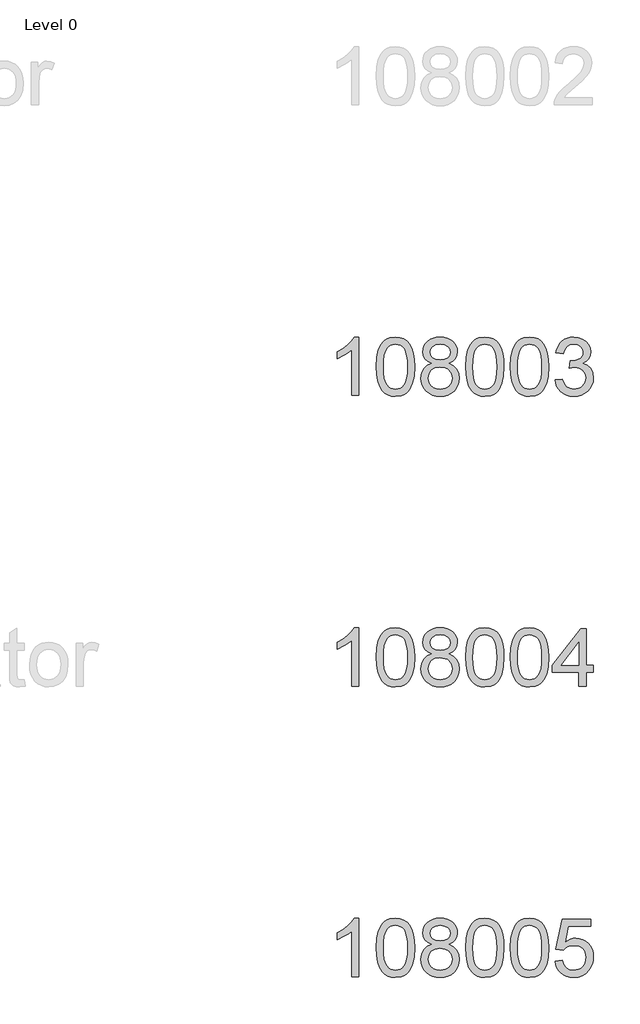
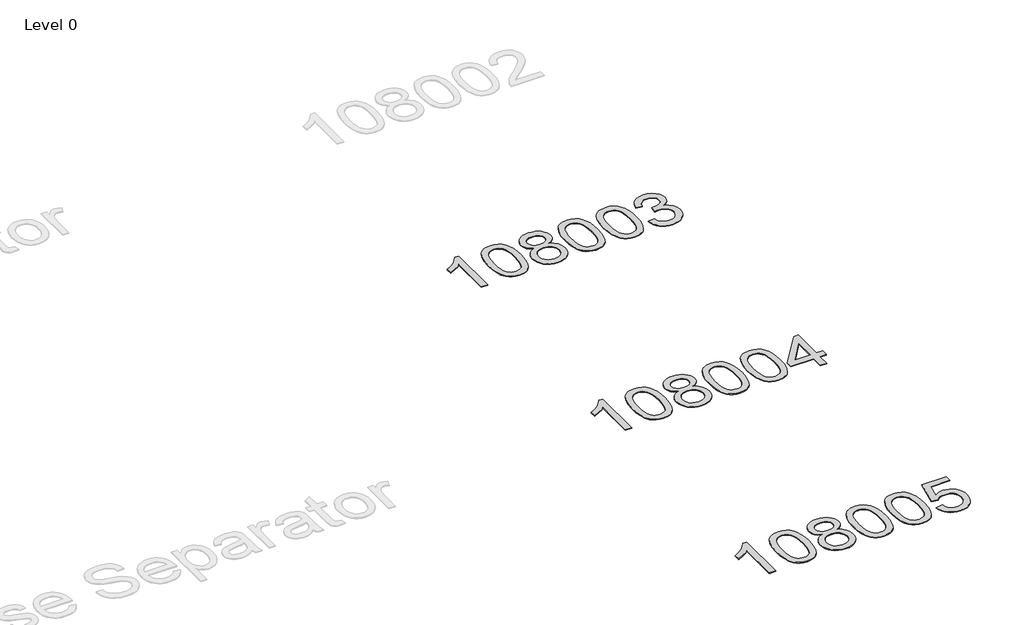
# One storey, part 3 of 15: 3 proxies.
"""IFC4 building model written with IfcOpenShell, lengths in millimetres."""

from ifc_helpers import new_model, si_unit, origin, origin_with_axes, place, context, project, spatial, polyline, outline, extrude, element, save

model = new_model("IFC4")

# Units and contexts
model_context = context("Model", 3, world=origin())
ifc_project = project(units=[si_unit("LENGTHUNIT", "METRE", prefix="MILLI")], contexts=[model_context])

# Site, building, storey
site = spatial("IfcSite", under=ifc_project)
building = spatial("IfcBuilding", under=site)
storey = spatial("IfcBuildingStorey", under=building, Name="Level 0", Elevation=0.0)

# Proxies
placement = place(None, origin())
element("IfcBuildingElementProxy", 1, Name="400mm Arial", ObjectType="400mm Arial", at=placement, inside=storey, context=model_context, shape_type="SweptSolid", body=[
    extrude(outline(polyline([(-3629.592891, 4149.0232018), (-3679.821046, 4149.0232018), (-3679.821046, 4462.1643561), (-3700.7903198, 4445.2049961), (-3727.4004508, 4428.2701616), (-3780.2773562, 4402.9108294), (-3780.2773562, 4450.3921323), (-3740.8281436, 4471.8519153), (-3706.6519062, 4497.3829258), (-3679.7106814, 4524.532617), (-3661.9665065, 4550.8484424), (-3629.592891, 4550.8484424), (-3629.592891, 4149.0232018)])), origin_with_axes(), (0.0, 0.0, 1.0), 5.0),
    extrude(outline(polyline([(-3510.3010227, 4346.6984606), (-3506.60994, 4411.0164961), (-3495.5366919, 4462.3115089), (-3477.1916431, 4501.3683141), (-3465.3335801, 4516.6016944), (-3451.6851581, 4528.9717264), (-3436.2003918, 4538.5427897), (-3418.8332959, 4545.3792634), (-3378.4521156, 4550.8484424), (-3347.5009771, 4547.6110809), (-3319.7872001, 4537.8989962), (-3296.6106344, 4522.0923331), (-3279.2711297, 4500.5712364), (-3266.1745307, 4473.519647), (-3255.726682, 4441.121506), (-3248.8840769, 4399.9800362), (-3246.6032085, 4346.6984606), (-3250.257503, 4282.7483071), (-3261.2203865, 4231.5759215), (-3279.4550707, 4192.4823282), (-3291.2855425, 4177.2029627), (-3304.9247675, 4164.7685512), (-3320.4279279, 4155.1331086), (-3337.8502061, 4148.2506496), (-3378.4521156, 4142.7446824), (-3406.1168416, 4145.1359154), (-3430.642308, 4152.3096143), (-3452.0285146, 4164.2657792), (-3470.2754616, 4181.0044099), (-3487.7866446, 4211.262704), (-3500.2946324, 4248.9644772), (-3507.7994251, 4294.1097294), (-3510.3010227, 4346.6984606)]), holes=[polyline([(-3460.0728676, 4346.7965624), (-3458.6013396, 4303.1320353), (-3454.1867557, 4267.7877726), (-3446.8291158, 4240.7637744), (-3436.5284199, 4222.0600406), (-3424.069483, 4209.3343892), (-3410.23712, 4200.2446383), (-3395.0313308, 4194.7907877), (-3378.4521156, 4192.9728375), (-3361.8729003, 4194.7969191), (-3346.6671112, 4200.2691637), (-3332.8347482, 4209.3895715), (-3320.3758113, 4222.1581425), (-3310.0751154, 4240.8925331), (-3302.7174755, 4267.9103999), (-3298.3028916, 4303.2117431), (-3296.8313636, 4346.7965624), (-3298.2538406, 4389.305327), (-3302.5212718, 4424.0272559), (-3309.633657, 4450.9623494), (-3319.5909964, 4470.1106072), (-3331.8414668, 4483.4585923), (-3345.8332454, 4492.9928673), (-3361.566332, 4498.7134323), (-3379.0407268, 4500.6202873), (-3395.5341029, 4498.9402929), (-3410.4823746, 4493.9003096), (-3423.885542, 4485.5003373), (-3435.743605, 4473.7403762), (-3446.3876574, 4452.8937298), (-3453.9905519, 4424.7875454), (-3458.5522887, 4389.4218229), (-3460.0728676, 4346.7965624)])]), origin_with_axes(), (0.0, 0.0, 1.0), 5.0),
    extrude(outline(polyline([(-3129.4695813, 4370.3410101), (-3156.3617551, 4383.5847619), (-3175.2341015, 4401.5374033), (-3186.3809259, 4423.8310522), (-3190.0965341, 4450.0978267), (-3188.0731831, 4470.5827224), (-3182.0031302, 4489.3630983), (-3171.8863753, 4506.4389542), (-3157.7229185, 4521.8102903), (-3140.1933414, 4534.5144818), (-3119.9782258, 4543.5889044), (-3097.0775716, 4549.0335579), (-3071.4913788, 4550.8484424), (-3045.7825587, 4548.9906383), (-3022.7102263, 4543.4172261), (-3002.2743814, 4534.1282057), (-2984.4750242, 4521.1235772), (-2970.05405, 4505.4518042), (-2959.7533542, 4488.1613504), (-2953.5729366, 4469.2522159), (-2951.5127975, 4448.7244006), (-2955.1793547, 4423.3037547), (-2966.1790263, 4401.3902505), (-2984.6344398, 4383.5479737), (-3010.6682223, 4370.3410101), (-2979.753872, 4354.4117197), (-2957.2517566, 4330.9531112), (-2943.5297582, 4301.0933559), (-2938.9557587, 4265.9606254), (-2941.2243643, 4240.9078615), (-2948.0301812, 4217.9397623), (-2959.3732094, 4197.0563277), (-2975.2534489, 4178.2575577), (-2994.8370338, 4162.7206748), (-3017.2900982, 4151.6229013), (-3042.6126422, 4144.9642371), (-3070.8046658, 4142.7446824), (-3098.9966893, 4144.9734342), (-3124.3192333, 4151.6596895), (-3146.7722978, 4162.8034482), (-3166.3558826, 4178.4047105), (-3182.2361221, 4197.3353048), (-3193.5791503, 4218.4670598), (-3200.3849672, 4241.7999753), (-3202.6535728, 4267.3340515), (-3197.8956324, 4303.8279454), (-3183.621811, 4333.8471162), (-3160.5678726, 4356.3614943), (-3129.4695813, 4370.3410101)]), holes=[polyline([(-3139.868379, 4448.6262987), (-3135.4170068, 4426.7005318), (-3122.0628904, 4409.1893488), (-3100.1984372, 4397.7114306), (-3070.2160546, 4393.8854578), (-3040.9326478, 4397.6869051), (-3019.3992883, 4409.0912469), (-3006.1555365, 4426.0138187), (-3001.7409525, 4446.3699558), (-3006.3026893, 4467.498645), (-3019.9878995, 4484.9730398), (-3041.8155645, 4496.7084755), (-3070.8046658, 4500.6202873), (-3099.977708, 4496.7943146), (-3121.7685848, 4485.3163963), (-3135.3434305, 4468.4919264), (-3139.868379, 4448.6262987)]), polyline([(-3152.4254178, 4269.099885), (-3150.3284904, 4249.8841822), (-3144.0377083, 4231.2816159), (-3132.4249, 4215.05802), (-3114.361894, 4202.9792278), (-3092.7304327, 4195.4744351), (-3070.4122583, 4192.9728375), (-3036.2237582, 4198.23355), (-3022.3300815, 4204.8094407), (-3010.5701204, 4214.0156876), (-2994.5304654, 4237.9157546), (-2989.1839138, 4267.5302552), (-2994.7021437, 4297.6475279), (-3011.2568335, 4322.0748924), (-3023.3356257, 4331.5171969), (-3037.4990825, 4338.2617001), (-3072.07999, 4343.6573027), (-3105.7902435, 4338.3352765), (-3119.5275703, 4331.6827438), (-3131.1863639, 4322.3691979), (-3147.1156543, 4298.4078173), (-3152.4254178, 4269.099885)])]), origin_with_axes(), (0.0, 0.0, 1.0), 5.0),
    extrude(outline(polyline([(-2895.006123, 4346.6984606), (-2891.3150403, 4411.0164961), (-2880.2417923, 4462.3115089), (-2861.8967434, 4501.3683141), (-2850.0386805, 4516.6016944), (-2836.3902584, 4528.9717264), (-2820.9054921, 4538.5427897), (-2803.5383963, 4545.3792634), (-2763.1572159, 4550.8484424), (-2732.2060774, 4547.6110809), (-2704.4923004, 4537.8989962), (-2681.3157347, 4522.0923331), (-2663.97623, 4500.5712364), (-2650.879631, 4473.519647), (-2640.4317823, 4441.121506), (-2633.5891772, 4399.9800362), (-2631.3083089, 4346.6984606), (-2634.9626033, 4282.7483071), (-2645.9254868, 4231.5759215), (-2664.160171, 4192.4823282), (-2675.9906429, 4177.2029627), (-2689.6298678, 4164.7685512), (-2705.1330282, 4155.1331086), (-2722.5553064, 4148.2506496), (-2763.1572159, 4142.7446824), (-2790.821942, 4145.1359154), (-2815.3474083, 4152.3096143), (-2836.733615, 4164.2657792), (-2854.9805619, 4181.0044099), (-2872.4917449, 4211.262704), (-2884.9997327, 4248.9644772), (-2892.5045254, 4294.1097294), (-2895.006123, 4346.6984606)]), holes=[polyline([(-2844.7779679, 4346.7965624), (-2843.3064399, 4303.1320353), (-2838.891856, 4267.7877726), (-2831.5342161, 4240.7637744), (-2821.2335202, 4222.0600406), (-2808.7745833, 4209.3343892), (-2794.9422203, 4200.2446383), (-2779.7364312, 4194.7907877), (-2763.1572159, 4192.9728375), (-2746.5780007, 4194.7969191), (-2731.3722115, 4200.2691637), (-2717.5398485, 4209.3895715), (-2705.0809116, 4222.1581425), (-2694.7802158, 4240.8925331), (-2687.4225759, 4267.9103999), (-2683.0079919, 4303.2117431), (-2681.5364639, 4346.7965624), (-2682.958941, 4389.305327), (-2687.2263721, 4424.0272559), (-2694.3387574, 4450.9623494), (-2704.2960967, 4470.1106072), (-2716.5465671, 4483.4585923), (-2730.5383457, 4492.9928673), (-2746.2714324, 4498.7134323), (-2763.7458271, 4500.6202873), (-2780.2392032, 4498.9402929), (-2795.187475, 4493.9003096), (-2808.5906423, 4485.5003373), (-2820.4487053, 4473.7403762), (-2831.0927577, 4452.8937298), (-2838.6956523, 4424.7875454), (-2843.257389, 4389.4218229), (-2844.7779679, 4346.7965624)])]), origin_with_axes(), (0.0, 0.0, 1.0), 5.0),
    extrude(outline(polyline([(-2587.3586732, 4346.6984606), (-2583.6675905, 4411.0164961), (-2572.5943424, 4462.3115089), (-2554.2492936, 4501.3683141), (-2542.3912306, 4516.6016944), (-2528.7428086, 4528.9717264), (-2513.2580423, 4538.5427897), (-2495.8909464, 4545.3792634), (-2455.5097661, 4550.8484424), (-2424.5586276, 4547.6110809), (-2396.8448506, 4537.8989962), (-2373.6682849, 4522.0923331), (-2356.3287802, 4500.5712364), (-2343.2321812, 4473.519647), (-2332.7843325, 4441.121506), (-2325.9417274, 4399.9800362), (-2323.660859, 4346.6984606), (-2327.3151535, 4282.7483071), (-2338.278037, 4231.5759215), (-2356.5127212, 4192.4823282), (-2368.343193, 4177.2029627), (-2381.982418, 4164.7685512), (-2397.4855784, 4155.1331086), (-2414.9078566, 4148.2506496), (-2455.5097661, 4142.7446824), (-2483.1744921, 4145.1359154), (-2507.6999585, 4152.3096143), (-2529.0861651, 4164.2657792), (-2547.3331121, 4181.0044099), (-2564.8442951, 4211.262704), (-2577.3522829, 4248.9644772), (-2584.8570756, 4294.1097294), (-2587.3586732, 4346.6984606)]), holes=[polyline([(-2537.1305181, 4346.7965624), (-2535.6589901, 4303.1320353), (-2531.2444062, 4267.7877726), (-2523.8867663, 4240.7637744), (-2513.5860704, 4222.0600406), (-2501.1271335, 4209.3343892), (-2487.2947705, 4200.2446383), (-2472.0889813, 4194.7907877), (-2455.5097661, 4192.9728375), (-2438.9305508, 4194.7969191), (-2423.7247617, 4200.2691637), (-2409.8923987, 4209.3895715), (-2397.4334618, 4222.1581425), (-2387.1327659, 4240.8925331), (-2379.775126, 4267.9103999), (-2375.3605421, 4303.2117431), (-2373.8890141, 4346.7965624), (-2375.3114911, 4389.305327), (-2379.5789223, 4424.0272559), (-2386.6913075, 4450.9623494), (-2396.6486469, 4470.1106072), (-2408.8991173, 4483.4585923), (-2422.8908959, 4492.9928673), (-2438.6239825, 4498.7134323), (-2456.0983773, 4500.6202873), (-2472.5917534, 4498.9402929), (-2487.5400251, 4493.9003096), (-2500.9431925, 4485.5003373), (-2512.8012555, 4473.7403762), (-2523.4453079, 4452.8937298), (-2531.0482024, 4424.7875454), (-2535.6099392, 4389.4218229), (-2537.1305181, 4346.7965624)])]), origin_with_axes(), (0.0, 0.0, 1.0), 5.0),
    extrude(outline(polyline([(-2279.7112233, 4255.7580314), (-2229.4830683, 4262.0365507), (-2218.2381419, 4230.4722756), (-2201.7692913, 4209.1596453), (-2179.2671759, 4197.0195395), (-2149.9224554, 4192.9728375), (-2115.4887007, 4198.5401184), (-2101.2148793, 4205.4992194), (-2088.9030952, 4215.241961), (-2071.906947, 4240.1598348), (-2066.2415643, 4270.3752093), (-2071.8578961, 4299.0577422), (-2088.7068914, 4322.320147), (-2114.2133764, 4337.7344026), (-2145.8021771, 4342.8724878), (-2181.0207468, 4337.3787834), (-2175.4289404, 4387.6069384), (-2167.3845875, 4387.0183272), (-2137.2918403, 4390.6235708), (-2110.3874037, 4401.4393014), (-2099.3141556, 4409.6185445), (-2091.4046927, 4419.7352993), (-2086.659015, 4431.789566), (-2085.0771224, 4445.7813446), (-2089.6633846, 4467.4741196), (-2103.4221712, 4485.0711417), (-2124.4159704, 4496.7330009), (-2150.7072704, 4500.6202873), (-2177.0476212, 4496.6962127), (-2198.5809807, 4484.9239889), (-2214.3018046, 4465.3036158), (-2223.2045489, 4437.8350935), (-2273.432704, 4444.1136129), (-2267.479147, 4468.0933876), (-2258.6438477, 4489.2159455), (-2246.9268062, 4507.4812866), (-2232.3280224, 4522.8894108), (-2215.3073487, 4535.1214871), (-2196.3246378, 4543.8586845), (-2175.3798895, 4549.1010029), (-2152.4731039, 4550.8484424), (-2120.896566, 4547.4026144), (-2091.8952021, 4537.0651303), (-2067.4433121, 4520.7556952), (-2049.5151962, 4499.394014), (-2038.5155246, 4474.7827086), (-2034.8489673, 4448.7244006), (-2038.3315836, 4424.4441889), (-2048.7794322, 4402.4203201), (-2066.0453605, 4383.6583383), (-2089.9822157, 4369.1637877), (-2058.5405678, 4356.4595962), (-2035.2413748, 4334.8281349), (-2020.8204006, 4305.4466262), (-2016.0134092, 4269.4922925), (-2018.4169049, 4244.010333), (-2025.627392, 4220.5394617), (-2037.6448705, 4199.0796786), (-2054.4693404, 4179.6309838), (-2074.9664989, 4163.493227), (-2098.0020432, 4151.9662578), (-2123.5759732, 4145.0500763), (-2151.688289, 4142.7446824), (-2177.0966721, 4144.7128511), (-2200.2487124, 4150.6173571), (-2221.1444097, 4160.4582005), (-2239.7837641, 4174.2353812), (-2255.4126176, 4191.1395589), (-2267.2768119, 4210.3613932), (-2275.3763472, 4231.900884), (-2279.7112233, 4255.7580314)])), origin_with_axes(), (0.0, 0.0, 1.0), 5.0),
])
element("IfcBuildingElementProxy", 2, Name="400mm Arial", ObjectType="400mm Arial", at=placement, inside=storey, context=model_context, shape_type="SweptSolid", body=[
    extrude(outline(polyline([(-3629.592891, 2149.0232018), (-3679.821046, 2149.0232018), (-3679.821046, 2462.1643561), (-3700.7903198, 2445.2049961), (-3727.4004508, 2428.2701616), (-3780.2773562, 2402.9108294), (-3780.2773562, 2450.3921323), (-3740.8281436, 2471.8519153), (-3706.6519062, 2497.3829258), (-3679.7106814, 2524.532617), (-3661.9665065, 2550.8484424), (-3629.592891, 2550.8484424), (-3629.592891, 2149.0232018)])), origin_with_axes(), (0.0, 0.0, 1.0), 5.0),
    extrude(outline(polyline([(-3510.3010227, 2346.6984606), (-3506.60994, 2411.0164961), (-3495.5366919, 2462.3115089), (-3477.1916431, 2501.3683141), (-3465.3335801, 2516.6016944), (-3451.6851581, 2528.9717264), (-3436.2003918, 2538.5427897), (-3418.8332959, 2545.3792634), (-3378.4521156, 2550.8484424), (-3347.5009771, 2547.6110809), (-3319.7872001, 2537.8989962), (-3296.6106344, 2522.0923331), (-3279.2711297, 2500.5712364), (-3266.1745307, 2473.519647), (-3255.726682, 2441.121506), (-3248.8840769, 2399.9800362), (-3246.6032085, 2346.6984606), (-3250.257503, 2282.7483071), (-3261.2203865, 2231.5759215), (-3279.4550707, 2192.4823282), (-3291.2855425, 2177.2029627), (-3304.9247675, 2164.7685512), (-3320.4279279, 2155.1331086), (-3337.8502061, 2148.2506496), (-3378.4521156, 2142.7446824), (-3406.1168416, 2145.1359154), (-3430.642308, 2152.3096143), (-3452.0285146, 2164.2657792), (-3470.2754616, 2181.0044099), (-3487.7866446, 2211.262704), (-3500.2946324, 2248.9644772), (-3507.7994251, 2294.1097294), (-3510.3010227, 2346.6984606)]), holes=[polyline([(-3460.0728676, 2346.7965624), (-3458.6013396, 2303.1320353), (-3454.1867557, 2267.7877726), (-3446.8291158, 2240.7637744), (-3436.5284199, 2222.0600406), (-3424.069483, 2209.3343892), (-3410.23712, 2200.2446383), (-3395.0313308, 2194.7907877), (-3378.4521156, 2192.9728375), (-3361.8729003, 2194.7969191), (-3346.6671112, 2200.2691637), (-3332.8347482, 2209.3895715), (-3320.3758113, 2222.1581425), (-3310.0751154, 2240.8925331), (-3302.7174755, 2267.9103999), (-3298.3028916, 2303.2117431), (-3296.8313636, 2346.7965624), (-3298.2538406, 2389.305327), (-3302.5212718, 2424.0272559), (-3309.633657, 2450.9623494), (-3319.5909964, 2470.1106072), (-3331.8414668, 2483.4585923), (-3345.8332454, 2492.9928673), (-3361.566332, 2498.7134323), (-3379.0407268, 2500.6202873), (-3395.5341029, 2498.9402929), (-3410.4823746, 2493.9003096), (-3423.885542, 2485.5003373), (-3435.743605, 2473.7403762), (-3446.3876574, 2452.8937298), (-3453.9905519, 2424.7875454), (-3458.5522887, 2389.4218229), (-3460.0728676, 2346.7965624)])]), origin_with_axes(), (0.0, 0.0, 1.0), 5.0),
    extrude(outline(polyline([(-3129.4695813, 2370.3410101), (-3156.3617551, 2383.5847619), (-3175.2341015, 2401.5374033), (-3186.3809259, 2423.8310522), (-3190.0965341, 2450.0978267), (-3188.0731831, 2470.5827224), (-3182.0031302, 2489.3630983), (-3171.8863753, 2506.4389542), (-3157.7229185, 2521.8102903), (-3140.1933414, 2534.5144818), (-3119.9782258, 2543.5889044), (-3097.0775716, 2549.0335579), (-3071.4913788, 2550.8484424), (-3045.7825587, 2548.9906383), (-3022.7102263, 2543.4172261), (-3002.2743814, 2534.1282057), (-2984.4750242, 2521.1235772), (-2970.05405, 2505.4518042), (-2959.7533542, 2488.1613504), (-2953.5729366, 2469.2522159), (-2951.5127975, 2448.7244006), (-2955.1793547, 2423.3037547), (-2966.1790263, 2401.3902505), (-2984.6344398, 2383.5479737), (-3010.6682223, 2370.3410101), (-2979.753872, 2354.4117197), (-2957.2517566, 2330.9531112), (-2943.5297582, 2301.0933559), (-2938.9557587, 2265.9606254), (-2941.2243643, 2240.9078615), (-2948.0301812, 2217.9397623), (-2959.3732094, 2197.0563277), (-2975.2534489, 2178.2575577), (-2994.8370338, 2162.7206748), (-3017.2900982, 2151.6229013), (-3042.6126422, 2144.9642371), (-3070.8046658, 2142.7446824), (-3098.9966893, 2144.9734342), (-3124.3192333, 2151.6596895), (-3146.7722978, 2162.8034482), (-3166.3558826, 2178.4047105), (-3182.2361221, 2197.3353048), (-3193.5791503, 2218.4670598), (-3200.3849672, 2241.7999753), (-3202.6535728, 2267.3340515), (-3197.8956324, 2303.8279454), (-3183.621811, 2333.8471162), (-3160.5678726, 2356.3614943), (-3129.4695813, 2370.3410101)]), holes=[polyline([(-3139.868379, 2448.6262987), (-3135.4170068, 2426.7005318), (-3122.0628904, 2409.1893488), (-3100.1984372, 2397.7114306), (-3070.2160546, 2393.8854578), (-3040.9326478, 2397.6869051), (-3019.3992883, 2409.0912469), (-3006.1555365, 2426.0138187), (-3001.7409525, 2446.3699558), (-3006.3026893, 2467.498645), (-3019.9878995, 2484.9730398), (-3041.8155645, 2496.7084755), (-3070.8046658, 2500.6202873), (-3099.977708, 2496.7943146), (-3121.7685848, 2485.3163963), (-3135.3434305, 2468.4919264), (-3139.868379, 2448.6262987)]), polyline([(-3152.4254178, 2269.099885), (-3150.3284904, 2249.8841822), (-3144.0377083, 2231.2816159), (-3132.4249, 2215.05802), (-3114.361894, 2202.9792278), (-3092.7304327, 2195.4744351), (-3070.4122583, 2192.9728375), (-3036.2237582, 2198.23355), (-3022.3300815, 2204.8094407), (-3010.5701204, 2214.0156876), (-2994.5304654, 2237.9157546), (-2989.1839138, 2267.5302552), (-2994.7021437, 2297.6475279), (-3011.2568335, 2322.0748924), (-3023.3356257, 2331.5171969), (-3037.4990825, 2338.2617001), (-3072.07999, 2343.6573027), (-3105.7902435, 2338.3352765), (-3119.5275703, 2331.6827438), (-3131.1863639, 2322.3691979), (-3147.1156543, 2298.4078173), (-3152.4254178, 2269.099885)])]), origin_with_axes(), (0.0, 0.0, 1.0), 5.0),
    extrude(outline(polyline([(-2895.006123, 2346.6984606), (-2891.3150403, 2411.0164961), (-2880.2417923, 2462.3115089), (-2861.8967434, 2501.3683141), (-2850.0386805, 2516.6016944), (-2836.3902584, 2528.9717264), (-2820.9054921, 2538.5427897), (-2803.5383963, 2545.3792634), (-2763.1572159, 2550.8484424), (-2732.2060774, 2547.6110809), (-2704.4923004, 2537.8989962), (-2681.3157347, 2522.0923331), (-2663.97623, 2500.5712364), (-2650.879631, 2473.519647), (-2640.4317823, 2441.121506), (-2633.5891772, 2399.9800362), (-2631.3083089, 2346.6984606), (-2634.9626033, 2282.7483071), (-2645.9254868, 2231.5759215), (-2664.160171, 2192.4823282), (-2675.9906429, 2177.2029627), (-2689.6298678, 2164.7685512), (-2705.1330282, 2155.1331086), (-2722.5553064, 2148.2506496), (-2763.1572159, 2142.7446824), (-2790.821942, 2145.1359154), (-2815.3474083, 2152.3096143), (-2836.733615, 2164.2657792), (-2854.9805619, 2181.0044099), (-2872.4917449, 2211.262704), (-2884.9997327, 2248.9644772), (-2892.5045254, 2294.1097294), (-2895.006123, 2346.6984606)]), holes=[polyline([(-2844.7779679, 2346.7965624), (-2843.3064399, 2303.1320353), (-2838.891856, 2267.7877726), (-2831.5342161, 2240.7637744), (-2821.2335202, 2222.0600406), (-2808.7745833, 2209.3343892), (-2794.9422203, 2200.2446383), (-2779.7364312, 2194.7907877), (-2763.1572159, 2192.9728375), (-2746.5780007, 2194.7969191), (-2731.3722115, 2200.2691637), (-2717.5398485, 2209.3895715), (-2705.0809116, 2222.1581425), (-2694.7802158, 2240.8925331), (-2687.4225759, 2267.9103999), (-2683.0079919, 2303.2117431), (-2681.5364639, 2346.7965624), (-2682.958941, 2389.305327), (-2687.2263721, 2424.0272559), (-2694.3387574, 2450.9623494), (-2704.2960967, 2470.1106072), (-2716.5465671, 2483.4585923), (-2730.5383457, 2492.9928673), (-2746.2714324, 2498.7134323), (-2763.7458271, 2500.6202873), (-2780.2392032, 2498.9402929), (-2795.187475, 2493.9003096), (-2808.5906423, 2485.5003373), (-2820.4487053, 2473.7403762), (-2831.0927577, 2452.8937298), (-2838.6956523, 2424.7875454), (-2843.257389, 2389.4218229), (-2844.7779679, 2346.7965624)])]), origin_with_axes(), (0.0, 0.0, 1.0), 5.0),
    extrude(outline(polyline([(-2587.3586732, 2346.6984606), (-2583.6675905, 2411.0164961), (-2572.5943424, 2462.3115089), (-2554.2492936, 2501.3683141), (-2542.3912306, 2516.6016944), (-2528.7428086, 2528.9717264), (-2513.2580423, 2538.5427897), (-2495.8909464, 2545.3792634), (-2455.5097661, 2550.8484424), (-2424.5586276, 2547.6110809), (-2396.8448506, 2537.8989962), (-2373.6682849, 2522.0923331), (-2356.3287802, 2500.5712364), (-2343.2321812, 2473.519647), (-2332.7843325, 2441.121506), (-2325.9417274, 2399.9800362), (-2323.660859, 2346.6984606), (-2327.3151535, 2282.7483071), (-2338.278037, 2231.5759215), (-2356.5127212, 2192.4823282), (-2368.343193, 2177.2029627), (-2381.982418, 2164.7685512), (-2397.4855784, 2155.1331086), (-2414.9078566, 2148.2506496), (-2455.5097661, 2142.7446824), (-2483.1744921, 2145.1359154), (-2507.6999585, 2152.3096143), (-2529.0861651, 2164.2657792), (-2547.3331121, 2181.0044099), (-2564.8442951, 2211.262704), (-2577.3522829, 2248.9644772), (-2584.8570756, 2294.1097294), (-2587.3586732, 2346.6984606)]), holes=[polyline([(-2537.1305181, 2346.7965624), (-2535.6589901, 2303.1320353), (-2531.2444062, 2267.7877726), (-2523.8867663, 2240.7637744), (-2513.5860704, 2222.0600406), (-2501.1271335, 2209.3343892), (-2487.2947705, 2200.2446383), (-2472.0889813, 2194.7907877), (-2455.5097661, 2192.9728375), (-2438.9305508, 2194.7969191), (-2423.7247617, 2200.2691637), (-2409.8923987, 2209.3895715), (-2397.4334618, 2222.1581425), (-2387.1327659, 2240.8925331), (-2379.775126, 2267.9103999), (-2375.3605421, 2303.2117431), (-2373.8890141, 2346.7965624), (-2375.3114911, 2389.305327), (-2379.5789223, 2424.0272559), (-2386.6913075, 2450.9623494), (-2396.6486469, 2470.1106072), (-2408.8991173, 2483.4585923), (-2422.8908959, 2492.9928673), (-2438.6239825, 2498.7134323), (-2456.0983773, 2500.6202873), (-2472.5917534, 2498.9402929), (-2487.5400251, 2493.9003096), (-2500.9431925, 2485.5003373), (-2512.8012555, 2473.7403762), (-2523.4453079, 2452.8937298), (-2531.0482024, 2424.7875454), (-2535.6099392, 2389.4218229), (-2537.1305181, 2346.7965624)])]), origin_with_axes(), (0.0, 0.0, 1.0), 5.0),
    extrude(outline(polyline([(-2116.4697193, 2149.0232018), (-2116.4697193, 2243.2009926), (-2298.5467815, 2243.2009926), (-2298.5467815, 2293.4291477), (-2103.9126806, 2544.569923), (-2066.2415643, 2544.569923), (-2066.2415643, 2293.4291477), (-2016.0134092, 2293.4291477), (-2016.0134092, 2243.2009926), (-2066.2415643, 2243.2009926), (-2066.2415643, 2149.0232018), (-2116.4697193, 2149.0232018)]), holes=[polyline([(-2116.4697193, 2293.4291477), (-2116.4697193, 2448.6262987), (-2236.7426063, 2293.4291477), (-2116.4697193, 2293.4291477)])]), origin_with_axes(), (0.0, 0.0, 1.0), 5.0),
])
element("IfcBuildingElementProxy", 3, Name="400mm Arial", ObjectType="400mm Arial", at=placement, inside=storey, context=model_context, shape_type="SweptSolid", body=[
    extrude(outline(polyline([(-3629.592891, 149.0232018), (-3679.821046, 149.0232018), (-3679.821046, 462.1643561), (-3700.7903198, 445.2049961), (-3727.4004508, 428.2701616), (-3780.2773562, 402.9108294), (-3780.2773562, 450.3921323), (-3740.8281436, 471.8519153), (-3706.6519062, 497.3829258), (-3679.7106814, 524.532617), (-3661.9665065, 550.8484424), (-3629.592891, 550.8484424), (-3629.592891, 149.0232018)])), origin_with_axes(), (0.0, 0.0, 1.0), 5.0),
    extrude(outline(polyline([(-3510.3010227, 346.6984606), (-3506.60994, 411.0164961), (-3495.5366919, 462.3115089), (-3477.1916431, 501.3683141), (-3465.3335801, 516.6016944), (-3451.6851581, 528.9717264), (-3436.2003918, 538.5427897), (-3418.8332959, 545.3792634), (-3378.4521156, 550.8484424), (-3347.5009771, 547.6110809), (-3319.7872001, 537.8989962), (-3296.6106344, 522.0923331), (-3279.2711297, 500.5712364), (-3266.1745307, 473.519647), (-3255.726682, 441.121506), (-3248.8840769, 399.9800362), (-3246.6032085, 346.6984606), (-3250.257503, 282.7483071), (-3261.2203865, 231.5759215), (-3279.4550707, 192.4823282), (-3291.2855425, 177.2029627), (-3304.9247675, 164.7685512), (-3320.4279279, 155.1331086), (-3337.8502061, 148.2506496), (-3378.4521156, 142.7446824), (-3406.1168416, 145.1359154), (-3430.642308, 152.3096143), (-3452.0285146, 164.2657792), (-3470.2754616, 181.0044099), (-3487.7866446, 211.262704), (-3500.2946324, 248.9644772), (-3507.7994251, 294.1097294), (-3510.3010227, 346.6984606)]), holes=[polyline([(-3460.0728676, 346.7965624), (-3458.6013396, 303.1320353), (-3454.1867557, 267.7877726), (-3446.8291158, 240.7637744), (-3436.5284199, 222.0600406), (-3424.069483, 209.3343892), (-3410.23712, 200.2446383), (-3395.0313308, 194.7907877), (-3378.4521156, 192.9728375), (-3361.8729003, 194.7969191), (-3346.6671112, 200.2691637), (-3332.8347482, 209.3895715), (-3320.3758113, 222.1581425), (-3310.0751154, 240.8925331), (-3302.7174755, 267.9103999), (-3298.3028916, 303.2117431), (-3296.8313636, 346.7965624), (-3298.2538406, 389.305327), (-3302.5212718, 424.0272559), (-3309.633657, 450.9623494), (-3319.5909964, 470.1106072), (-3331.8414668, 483.4585923), (-3345.8332454, 492.9928673), (-3361.566332, 498.7134323), (-3379.0407268, 500.6202873), (-3395.5341029, 498.9402929), (-3410.4823746, 493.9003096), (-3423.885542, 485.5003373), (-3435.743605, 473.7403762), (-3446.3876574, 452.8937298), (-3453.9905519, 424.7875454), (-3458.5522887, 389.4218229), (-3460.0728676, 346.7965624)])]), origin_with_axes(), (0.0, 0.0, 1.0), 5.0),
    extrude(outline(polyline([(-3129.4695813, 370.3410101), (-3156.3617551, 383.5847619), (-3175.2341015, 401.5374033), (-3186.3809259, 423.8310522), (-3190.0965341, 450.0978267), (-3188.0731831, 470.5827224), (-3182.0031302, 489.3630983), (-3171.8863753, 506.4389542), (-3157.7229185, 521.8102903), (-3140.1933414, 534.5144818), (-3119.9782258, 543.5889044), (-3097.0775716, 549.0335579), (-3071.4913788, 550.8484424), (-3045.7825587, 548.9906383), (-3022.7102263, 543.4172261), (-3002.2743814, 534.1282057), (-2984.4750242, 521.1235772), (-2970.05405, 505.4518042), (-2959.7533542, 488.1613504), (-2953.5729366, 469.2522159), (-2951.5127975, 448.7244006), (-2955.1793547, 423.3037547), (-2966.1790263, 401.3902505), (-2984.6344398, 383.5479737), (-3010.6682223, 370.3410101), (-2979.753872, 354.4117197), (-2957.2517566, 330.9531112), (-2943.5297582, 301.0933559), (-2938.9557587, 265.9606254), (-2941.2243643, 240.9078615), (-2948.0301812, 217.9397623), (-2959.3732094, 197.0563277), (-2975.2534489, 178.2575577), (-2994.8370338, 162.7206748), (-3017.2900982, 151.6229013), (-3042.6126422, 144.9642371), (-3070.8046658, 142.7446824), (-3098.9966893, 144.9734342), (-3124.3192333, 151.6596895), (-3146.7722978, 162.8034482), (-3166.3558826, 178.4047105), (-3182.2361221, 197.3353048), (-3193.5791503, 218.4670598), (-3200.3849672, 241.7999753), (-3202.6535728, 267.3340515), (-3197.8956324, 303.8279454), (-3183.621811, 333.8471162), (-3160.5678726, 356.3614943), (-3129.4695813, 370.3410101)]), holes=[polyline([(-3139.868379, 448.6262987), (-3135.4170068, 426.7005318), (-3122.0628904, 409.1893488), (-3100.1984372, 397.7114306), (-3070.2160546, 393.8854578), (-3040.9326478, 397.6869051), (-3019.3992883, 409.0912469), (-3006.1555365, 426.0138187), (-3001.7409525, 446.3699558), (-3006.3026893, 467.498645), (-3019.9878995, 484.9730398), (-3041.8155645, 496.7084755), (-3070.8046658, 500.6202873), (-3099.977708, 496.7943146), (-3121.7685848, 485.3163963), (-3135.3434305, 468.4919264), (-3139.868379, 448.6262987)]), polyline([(-3152.4254178, 269.099885), (-3150.3284904, 249.8841822), (-3144.0377083, 231.2816159), (-3132.4249, 215.05802), (-3114.361894, 202.9792278), (-3092.7304327, 195.4744351), (-3070.4122583, 192.9728375), (-3036.2237582, 198.23355), (-3022.3300815, 204.8094407), (-3010.5701204, 214.0156876), (-2994.5304654, 237.9157546), (-2989.1839138, 267.5302552), (-2994.7021437, 297.6475279), (-3011.2568335, 322.0748924), (-3023.3356257, 331.5171969), (-3037.4990825, 338.2617001), (-3072.07999, 343.6573027), (-3105.7902435, 338.3352765), (-3119.5275703, 331.6827438), (-3131.1863639, 322.3691979), (-3147.1156543, 298.4078173), (-3152.4254178, 269.099885)])]), origin_with_axes(), (0.0, 0.0, 1.0), 5.0),
    extrude(outline(polyline([(-2895.006123, 346.6984606), (-2891.3150403, 411.0164961), (-2880.2417923, 462.3115089), (-2861.8967434, 501.3683141), (-2850.0386805, 516.6016944), (-2836.3902584, 528.9717264), (-2820.9054921, 538.5427897), (-2803.5383963, 545.3792634), (-2763.1572159, 550.8484424), (-2732.2060774, 547.6110809), (-2704.4923004, 537.8989962), (-2681.3157347, 522.0923331), (-2663.97623, 500.5712364), (-2650.879631, 473.519647), (-2640.4317823, 441.121506), (-2633.5891772, 399.9800362), (-2631.3083089, 346.6984606), (-2634.9626033, 282.7483071), (-2645.9254868, 231.5759215), (-2664.160171, 192.4823282), (-2675.9906429, 177.2029627), (-2689.6298678, 164.7685512), (-2705.1330282, 155.1331086), (-2722.5553064, 148.2506496), (-2763.1572159, 142.7446824), (-2790.821942, 145.1359154), (-2815.3474083, 152.3096143), (-2836.733615, 164.2657792), (-2854.9805619, 181.0044099), (-2872.4917449, 211.262704), (-2884.9997327, 248.9644772), (-2892.5045254, 294.1097294), (-2895.006123, 346.6984606)]), holes=[polyline([(-2844.7779679, 346.7965624), (-2843.3064399, 303.1320353), (-2838.891856, 267.7877726), (-2831.5342161, 240.7637744), (-2821.2335202, 222.0600406), (-2808.7745833, 209.3343892), (-2794.9422203, 200.2446383), (-2779.7364312, 194.7907877), (-2763.1572159, 192.9728375), (-2746.5780007, 194.7969191), (-2731.3722115, 200.2691637), (-2717.5398485, 209.3895715), (-2705.0809116, 222.1581425), (-2694.7802158, 240.8925331), (-2687.4225759, 267.9103999), (-2683.0079919, 303.2117431), (-2681.5364639, 346.7965624), (-2682.958941, 389.305327), (-2687.2263721, 424.0272559), (-2694.3387574, 450.9623494), (-2704.2960967, 470.1106072), (-2716.5465671, 483.4585923), (-2730.5383457, 492.9928673), (-2746.2714324, 498.7134323), (-2763.7458271, 500.6202873), (-2780.2392032, 498.9402929), (-2795.187475, 493.9003096), (-2808.5906423, 485.5003373), (-2820.4487053, 473.7403762), (-2831.0927577, 452.8937298), (-2838.6956523, 424.7875454), (-2843.257389, 389.4218229), (-2844.7779679, 346.7965624)])]), origin_with_axes(), (0.0, 0.0, 1.0), 5.0),
    extrude(outline(polyline([(-2587.3586732, 346.6984606), (-2583.6675905, 411.0164961), (-2572.5943424, 462.3115089), (-2554.2492936, 501.3683141), (-2542.3912306, 516.6016944), (-2528.7428086, 528.9717264), (-2513.2580423, 538.5427897), (-2495.8909464, 545.3792634), (-2455.5097661, 550.8484424), (-2424.5586276, 547.6110809), (-2396.8448506, 537.8989962), (-2373.6682849, 522.0923331), (-2356.3287802, 500.5712364), (-2343.2321812, 473.519647), (-2332.7843325, 441.121506), (-2325.9417274, 399.9800362), (-2323.660859, 346.6984606), (-2327.3151535, 282.7483071), (-2338.278037, 231.5759215), (-2356.5127212, 192.4823282), (-2368.343193, 177.2029627), (-2381.982418, 164.7685512), (-2397.4855784, 155.1331086), (-2414.9078566, 148.2506496), (-2455.5097661, 142.7446824), (-2483.1744921, 145.1359154), (-2507.6999585, 152.3096143), (-2529.0861651, 164.2657792), (-2547.3331121, 181.0044099), (-2564.8442951, 211.262704), (-2577.3522829, 248.9644772), (-2584.8570756, 294.1097294), (-2587.3586732, 346.6984606)]), holes=[polyline([(-2537.1305181, 346.7965624), (-2535.6589901, 303.1320353), (-2531.2444062, 267.7877726), (-2523.8867663, 240.7637744), (-2513.5860704, 222.0600406), (-2501.1271335, 209.3343892), (-2487.2947705, 200.2446383), (-2472.0889813, 194.7907877), (-2455.5097661, 192.9728375), (-2438.9305508, 194.7969191), (-2423.7247617, 200.2691637), (-2409.8923987, 209.3895715), (-2397.4334618, 222.1581425), (-2387.1327659, 240.8925331), (-2379.775126, 267.9103999), (-2375.3605421, 303.2117431), (-2373.8890141, 346.7965624), (-2375.3114911, 389.305327), (-2379.5789223, 424.0272559), (-2386.6913075, 450.9623494), (-2396.6486469, 470.1106072), (-2408.8991173, 483.4585923), (-2422.8908959, 492.9928673), (-2438.6239825, 498.7134323), (-2456.0983773, 500.6202873), (-2472.5917534, 498.9402929), (-2487.5400251, 493.9003096), (-2500.9431925, 485.5003373), (-2512.8012555, 473.7403762), (-2523.4453079, 452.8937298), (-2531.0482024, 424.7875454), (-2535.6099392, 389.4218229), (-2537.1305181, 346.7965624)])]), origin_with_axes(), (0.0, 0.0, 1.0), 5.0),
    extrude(outline(polyline([(-2279.7112233, 255.7580314), (-2229.4830683, 262.0365507), (-2220.2614929, 231.8824899), (-2204.172787, 210.2878168), (-2181.2905269, 197.3015823), (-2151.688289, 192.9728375), (-2132.5584253, 194.478088), (-2115.6849044, 198.9938395), (-2101.0677265, 206.520092), (-2088.7068914, 217.0568455), (-2078.8783108, 230.0829338), (-2071.8578961, 245.0771908), (-2066.2415643, 280.9702108), (-2071.5022768, 314.7663034), (-2078.0781675, 328.6845055), (-2087.2844144, 340.6161449), (-2099.1516744, 350.1872082), (-2113.7106044, 357.0236819), (-2150.9034741, 362.4928609), (-2175.2695249, 360.3100944), (-2195.0002626, 353.7617949), (-2210.7578747, 343.7308791), (-2223.2045489, 331.100264), (-2273.432704, 337.3787834), (-2229.4830683, 544.569923), (-2034.8489673, 544.569923), (-2034.8489673, 494.341768), (-2188.868896, 494.341768), (-2210.4513064, 383.6828638), (-2192.7255256, 396.3870554), (-2174.5705491, 405.4614779), (-2155.986377, 410.9061315), (-2136.9730092, 412.721016), (-2112.5088565, 410.4708044), (-2090.0312666, 403.7201698), (-2069.5402395, 392.4691121), (-2051.0357751, 376.7176314), (-2035.71349, 357.4283521), (-2024.7690007, 335.5638988), (-2018.2023071, 311.1242716), (-2016.0134092, 284.1094705), (-2017.9815779, 258.0879507), (-2023.8860839, 233.8813154), (-2033.7269273, 211.4895646), (-2047.504108, 190.9126983), (-2068.3752798, 169.8391914), (-2092.7290679, 154.7866864), (-2120.5654722, 145.7551834), (-2151.8844927, 142.7446824), (-2177.804845, 144.6791286), (-2201.2174683, 150.4824671), (-2222.1223627, 160.1546979), (-2240.5195281, 173.695821), (-2255.8264848, 190.4313861), (-2267.4607529, 209.6869428), (-2275.4223324, 231.4624913), (-2279.7112233, 255.7580314)])), origin_with_axes(), (0.0, 0.0, 1.0), 5.0),
])

save(model, "model.ifc")
